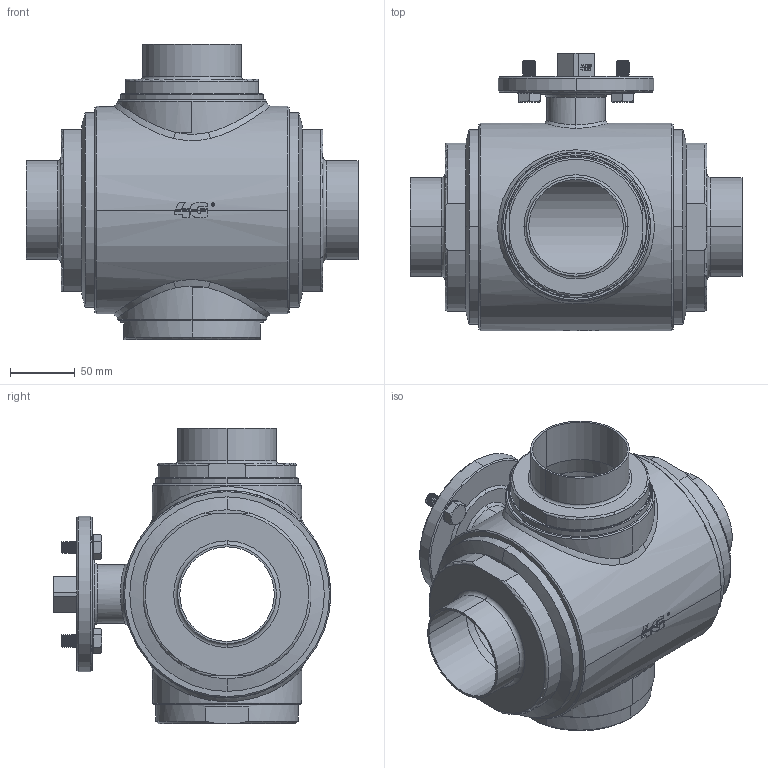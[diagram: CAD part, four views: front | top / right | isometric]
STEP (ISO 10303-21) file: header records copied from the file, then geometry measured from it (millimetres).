
FILE_DESCRIPTION((''),'2;1');
FILE_NAME('3030426U51F_SW0001','2026-09-23T07:39:25',('tecnico2'),('CDM Tecnoconsulting'),'CREO PARAMETRIC BY PTC INC, 2024063','CREO PARAMETRIC BY PTC INC, 2024063','');
FILE_SCHEMA(('CONFIG_CONTROL_DESIGN','SHAPE_APPEARANCE_LAYERS_GROUPS'));
Products named in the file (1): 3030426U51F_SW0001
Bounding box: 256 x 214 x 228 mm (x, y, z)
Volume: 2830415.9 mm3; surface area: 430073.2 mm2
Topology: 1 solids, 1 shells, 1739 faces, 4743 edges, 3072 vertices
Faces by surface type: plane 726, cylinder 477, cone 227, extrusion 166, bspline 107, torus 32, sphere 4
Entity records: 114531 total; most frequent: CARTESIAN_POINT 56479, ORIENTED_EDGE 9470, DIRECTION 7272, PRESENTATION_STYLE_ASSIGNMENT 5106, STYLED_ITEM 4792, CURVE_STYLE 4791, EDGE_CURVE 4735, VERTEX_POINT 3072
